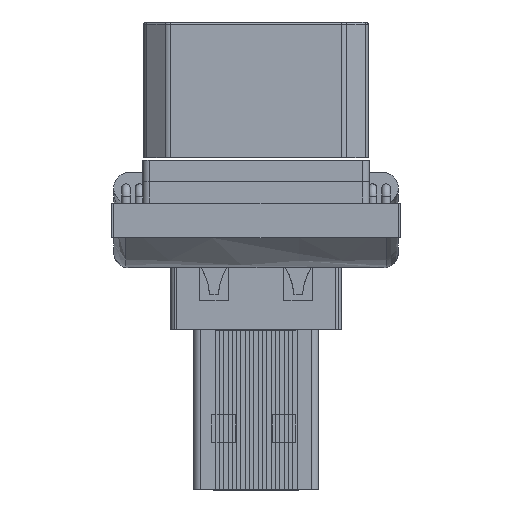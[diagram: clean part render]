
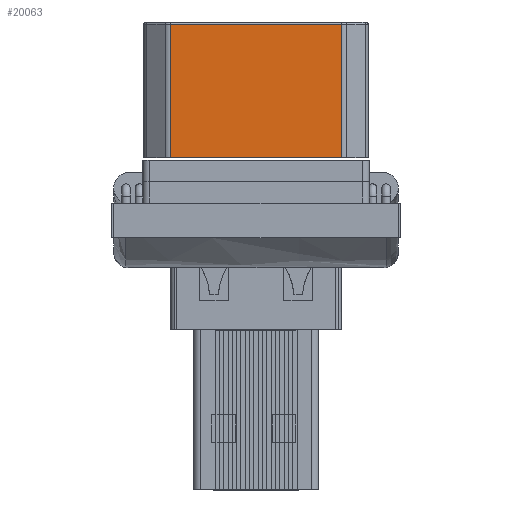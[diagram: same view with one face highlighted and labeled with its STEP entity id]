
A CAD part, front view. The second image highlights one B-rep face of the part: STEP entity #20063.
In plain terms, the highlighted planar face has unit normal (0, -1, 0) as drawn and (0, 1, 0) by its records, which use the part's own axes.
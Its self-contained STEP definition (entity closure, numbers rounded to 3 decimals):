
#18850 = VERTEX_POINT('',#18851);
#18851 = CARTESIAN_POINT('',(3.972,-3.,6.3));
#18858 = EDGE_CURVE('',#18859,#18850,#18861,.T.);
#18859 = VERTEX_POINT('',#18860);
#18860 = CARTESIAN_POINT('',(-3.972,-3.,6.3));
#18861 = LINE('',#18862,#18863);
#18862 = CARTESIAN_POINT('',(-4.1,-3.,6.3));
#18863 = VECTOR('',#18864,1.);
#18864 = DIRECTION('',(1.,0.,0.));
#20063 = ADVANCED_FACE('',(#20064),#20089,.F.);
#20064 = FACE_BOUND('',#20065,.T.);
#20065 = EDGE_LOOP('',(#20066,#20074,#20082,#20088));
#20066 = ORIENTED_EDGE('',*,*,#20067,.T.);
#20067 = EDGE_CURVE('',#18850,#20068,#20070,.T.);
#20068 = VERTEX_POINT('',#20069);
#20069 = CARTESIAN_POINT('',(3.972,-3.,0.1));
#20070 = LINE('',#20071,#20072);
#20071 = CARTESIAN_POINT('',(3.972,-3.,0.));
#20072 = VECTOR('',#20073,1.);
#20073 = DIRECTION('',(0.,0.,-1.));
#20074 = ORIENTED_EDGE('',*,*,#20075,.T.);
#20075 = EDGE_CURVE('',#20068,#20076,#20078,.T.);
#20076 = VERTEX_POINT('',#20077);
#20077 = CARTESIAN_POINT('',(-3.972,-3.,0.1));
#20078 = LINE('',#20079,#20080);
#20079 = CARTESIAN_POINT('',(-3.972,-3.,0.1));
#20080 = VECTOR('',#20081,1.);
#20081 = DIRECTION('',(-1.,0.,0.));
#20082 = ORIENTED_EDGE('',*,*,#20083,.T.);
#20083 = EDGE_CURVE('',#20076,#18859,#20084,.T.);
#20084 = LINE('',#20085,#20086);
#20085 = CARTESIAN_POINT('',(-3.972,-3.,0.));
#20086 = VECTOR('',#20087,1.);
#20087 = DIRECTION('',(0.,0.,1.));
#20088 = ORIENTED_EDGE('',*,*,#18858,.T.);
#20089 = PLANE('',#20090);
#20090 = AXIS2_PLACEMENT_3D('',#20091,#20092,#20093);
#20091 = CARTESIAN_POINT('',(-4.1,-3.,0.));
#20092 = DIRECTION('',(0.,-1.,0.));
#20093 = DIRECTION('',(0.,0.,-1.));
